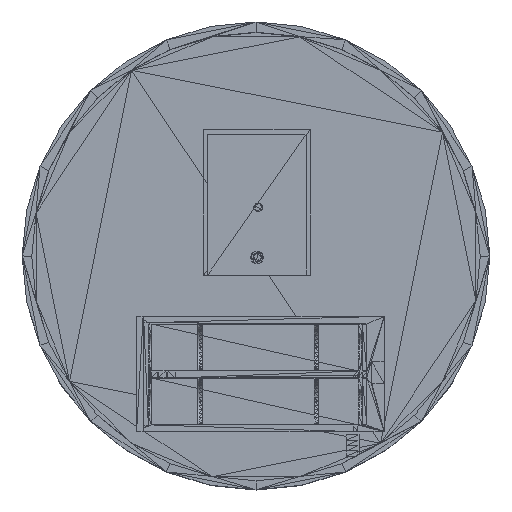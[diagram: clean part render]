
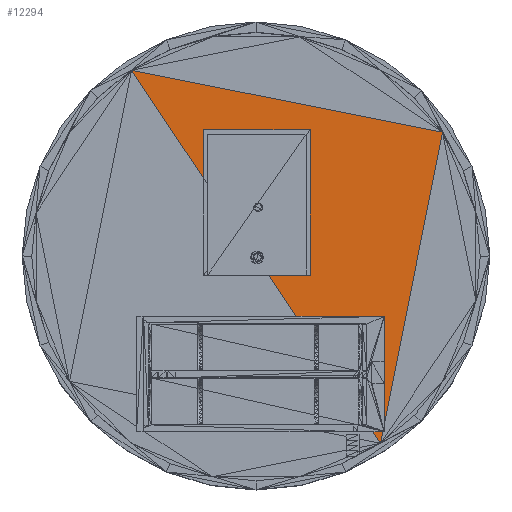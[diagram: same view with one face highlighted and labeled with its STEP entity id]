
A CAD part, top view. The second image highlights one B-rep face of the part: STEP entity #12294.
In plain terms, the highlighted planar face has unit normal (0, 0, 1).
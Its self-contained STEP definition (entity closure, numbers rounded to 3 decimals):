
#8626 = VERTEX_POINT('',#8627);
#8627 = CARTESIAN_POINT('',(-0.172,0.38,
    0.584));
#9254 = VERTEX_POINT('',#9255);
#9255 = CARTESIAN_POINT('',(-0.186,0.307,0.584
    ));
#11221 = VERTEX_POINT('',#11222);
#11222 = CARTESIAN_POINT('',(-0.244,0.394,
    0.584));
#12067 = PLANE('',#12068);
#12068 = AXIS2_PLACEMENT_3D('',#12069,#12070,#12071);
#12069 = CARTESIAN_POINT('',(-0.175,0.343,
    0.584));
#12070 = DIRECTION('',(0.,0.,1.));
#12071 = DIRECTION('',(1.,0.,-0.));
#12122 = PLANE('',#12123);
#12123 = AXIS2_PLACEMENT_3D('',#12124,#12125,#12126);
#12124 = CARTESIAN_POINT('',(-0.207,0.391,
    0.584));
#12125 = DIRECTION('',(0.,0.,1.));
#12126 = DIRECTION('',(0.,1.,0.));
#12177 = PLANE('',#12178);
#12178 = AXIS2_PLACEMENT_3D('',#12179,#12180,#12181);
#12179 = CARTESIAN_POINT('',(-0.228,0.342,
    0.584));
#12180 = DIRECTION('',(0.,0.,1.));
#12181 = DIRECTION('',(0.,1.,0.));
#12218 = EDGE_CURVE('',#8626,#9254,#12219,.T.);
#12219 = SURFACE_CURVE('',#12220,(#12224,#12231),.PCURVE_S1.);
#12220 = LINE('',#12221,#12222);
#12221 = CARTESIAN_POINT('',(-0.172,0.38,
    0.584));
#12222 = VECTOR('',#12223,1.);
#12223 = DIRECTION('',(-0.195,-0.981,0.));
#12224 = PCURVE('',#12067,#12225);
#12225 = DEFINITIONAL_REPRESENTATION('',(#12226),#12230);
#12226 = LINE('',#12227,#12228);
#12227 = CARTESIAN_POINT('',(0.003,0.037));
#12228 = VECTOR('',#12229,1.);
#12229 = DIRECTION('',(-0.195,-0.981));
#12230 = ( GEOMETRIC_REPRESENTATION_CONTEXT(2) 
PARAMETRIC_REPRESENTATION_CONTEXT() REPRESENTATION_CONTEXT('2D SPACE',''
  ) );
#12231 = PCURVE('',#12232,#12237);
#12232 = PLANE('',#12233);
#12233 = AXIS2_PLACEMENT_3D('',#12234,#12235,#12236);
#12234 = CARTESIAN_POINT('',(-0.202,0.359,
    0.584));
#12235 = DIRECTION('',(0.,0.,1.));
#12236 = DIRECTION('',(1.,0.,-0.));
#12237 = DEFINITIONAL_REPRESENTATION('',(#12238),#12241);
#12238 = B_SPLINE_CURVE_WITH_KNOTS('',1,(#12239,#12240),.UNSPECIFIED.,
  .F.,.F.,(2,2),(0.,0.074),.PIECEWISE_BEZIER_KNOTS.);
#12239 = CARTESIAN_POINT('',(0.031,0.021));
#12240 = CARTESIAN_POINT('',(0.016,-0.052));
#12241 = ( GEOMETRIC_REPRESENTATION_CONTEXT(2) 
PARAMETRIC_REPRESENTATION_CONTEXT() REPRESENTATION_CONTEXT('2D SPACE',''
  ) );
#12248 = EDGE_CURVE('',#11221,#8626,#12249,.T.);
#12249 = SURFACE_CURVE('',#12250,(#12254,#12261),.PCURVE_S1.);
#12250 = LINE('',#12251,#12252);
#12251 = CARTESIAN_POINT('',(-0.244,0.394,
    0.584));
#12252 = VECTOR('',#12253,1.);
#12253 = DIRECTION('',(0.981,-0.195,0.));
#12254 = PCURVE('',#12122,#12255);
#12255 = DEFINITIONAL_REPRESENTATION('',(#12256),#12260);
#12256 = LINE('',#12257,#12258);
#12257 = CARTESIAN_POINT('',(0.003,0.037));
#12258 = VECTOR('',#12259,1.);
#12259 = DIRECTION('',(-0.195,-0.981));
#12260 = ( GEOMETRIC_REPRESENTATION_CONTEXT(2) 
PARAMETRIC_REPRESENTATION_CONTEXT() REPRESENTATION_CONTEXT('2D SPACE',''
  ) );
#12261 = PCURVE('',#12232,#12262);
#12262 = DEFINITIONAL_REPRESENTATION('',(#12263),#12266);
#12263 = B_SPLINE_CURVE_WITH_KNOTS('',1,(#12264,#12265),.UNSPECIFIED.,
  .F.,.F.,(2,2),(0.,0.074),.PIECEWISE_BEZIER_KNOTS.);
#12264 = CARTESIAN_POINT('',(-0.042,0.035));
#12265 = CARTESIAN_POINT('',(0.031,0.021));
#12266 = ( GEOMETRIC_REPRESENTATION_CONTEXT(2) 
PARAMETRIC_REPRESENTATION_CONTEXT() REPRESENTATION_CONTEXT('2D SPACE',''
  ) );
#12273 = EDGE_CURVE('',#9254,#11221,#12274,.T.);
#12274 = SURFACE_CURVE('',#12275,(#12279,#12286),.PCURVE_S1.);
#12275 = LINE('',#12276,#12277);
#12276 = CARTESIAN_POINT('',(-0.186,0.307,
    0.584));
#12277 = VECTOR('',#12278,1.);
#12278 = DIRECTION('',(-0.556,0.831,0.));
#12279 = PCURVE('',#12177,#12280);
#12280 = DEFINITIONAL_REPRESENTATION('',(#12281),#12285);
#12281 = LINE('',#12282,#12283);
#12282 = CARTESIAN_POINT('',(-0.035,-0.042));
#12283 = VECTOR('',#12284,1.);
#12284 = DIRECTION('',(0.831,0.556));
#12285 = ( GEOMETRIC_REPRESENTATION_CONTEXT(2) 
PARAMETRIC_REPRESENTATION_CONTEXT() REPRESENTATION_CONTEXT('2D SPACE',''
  ) );
#12286 = PCURVE('',#12232,#12287);
#12287 = DEFINITIONAL_REPRESENTATION('',(#12288),#12291);
#12288 = B_SPLINE_CURVE_WITH_KNOTS('',1,(#12289,#12290),.UNSPECIFIED.,
  .F.,.F.,(2,2),(0.,0.105),.PIECEWISE_BEZIER_KNOTS.);
#12289 = CARTESIAN_POINT('',(0.016,-0.052));
#12290 = CARTESIAN_POINT('',(-0.042,0.035));
#12291 = ( GEOMETRIC_REPRESENTATION_CONTEXT(2) 
PARAMETRIC_REPRESENTATION_CONTEXT() REPRESENTATION_CONTEXT('2D SPACE',''
  ) );
#12294 = ADVANCED_FACE('',(#12295),#12232,.T.);
#12295 = FACE_BOUND('',#12296,.T.);
#12296 = EDGE_LOOP('',(#12297,#12298,#12299));
#12297 = ORIENTED_EDGE('',*,*,#12273,.F.);
#12298 = ORIENTED_EDGE('',*,*,#12218,.F.);
#12299 = ORIENTED_EDGE('',*,*,#12248,.F.);
